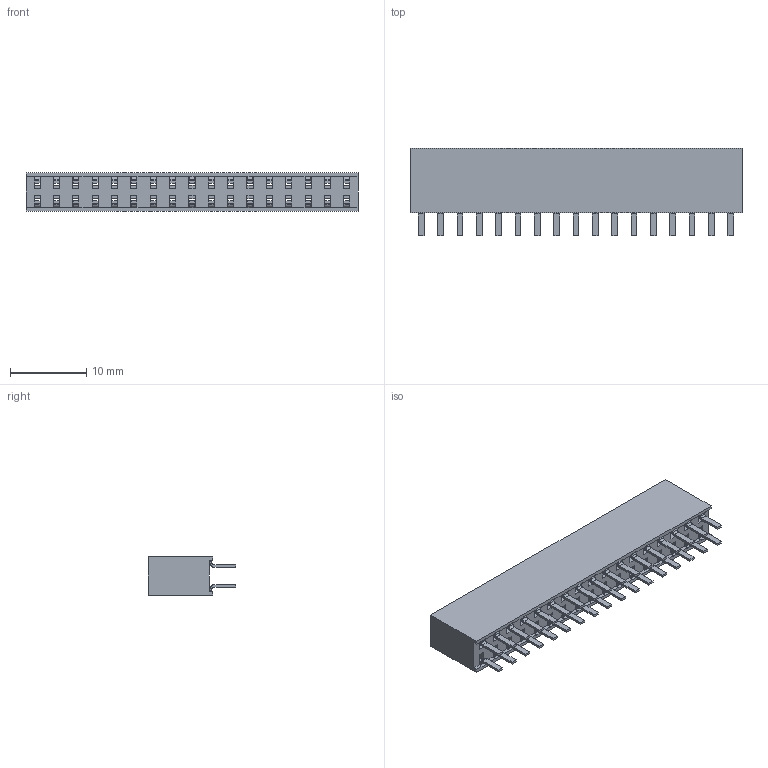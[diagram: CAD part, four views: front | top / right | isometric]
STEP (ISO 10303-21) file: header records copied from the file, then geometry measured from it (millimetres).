
FILE_DESCRIPTION(/* description */ (''),/* implementation_level */ '2;1');
FILE_NAME(/* name */ 'PM254-2-17-Z-8.5-XX-LPT(L11.5) (2.54双排 排母 直针 防漏锡 塑高8.5-HCTL).stp',/* time_stamp */ '2026-10-24T10:59:25+08:00',/* author */ (''),/* organization */ (''),/* preprocessor_version */ 'ST-DEVELOPER v16',/* originating_system */ 'SIEMENS PLM Software NX 10.0',/* authorisation */ '');
FILE_SCHEMA (('AUTOMOTIVE_DESIGN { 1 0 10303 214 3 1 1 1 }'));
Length unit declared in the file: millimetre
Products named in the file (1): PM254-2-N-Z-8.5-XX-LPT(L11.5) (2.54双排 排母 
直针 防漏锡 塑高8.5-HCTL)
Bounding box: 43.58 x 11.5 x 5 mm (x, y, z)
Volume: 1466.4 mm3; surface area: 3113 mm2
Topology: 35 solids, 35 shells, 860 faces, 2336 edges, 1512 vertices
Faces by surface type: plane 724, cylinder 136
Entity records: 26934 total; most frequent: CARTESIAN_POINT 4709, ORIENTED_EDGE 4672, DIRECTION 4330, EDGE_CURVE 2336, LINE 2064, VECTOR 2064, VERTEX_POINT 1512, AXIS2_PLACEMENT_3D 1133
